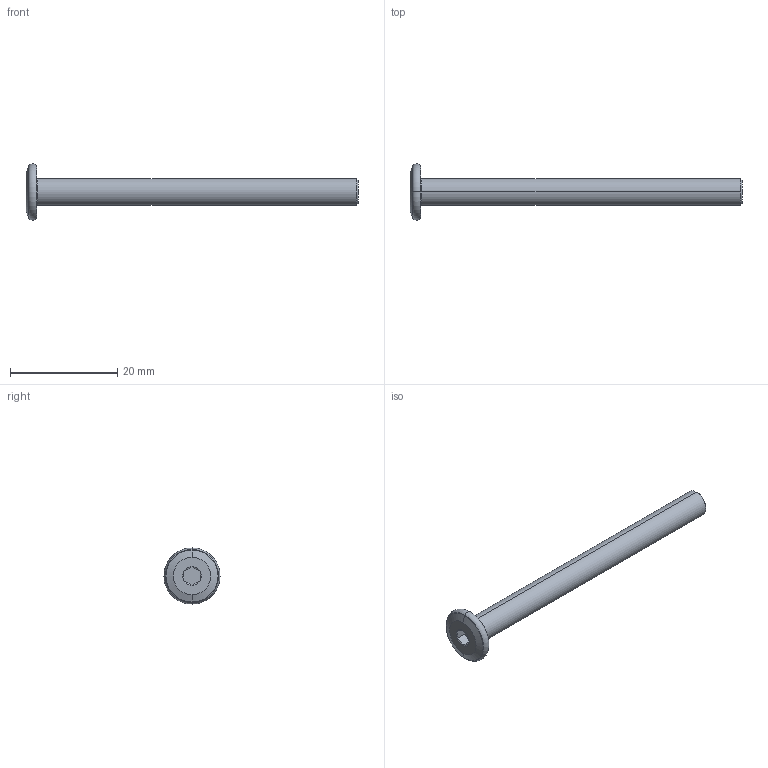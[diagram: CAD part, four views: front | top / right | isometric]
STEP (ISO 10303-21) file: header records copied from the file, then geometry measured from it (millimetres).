
FILE_DESCRIPTION (( 'STEP AP203' ), '1' );
FILE_NAME ('LGD-304D-M5x60.STEP', '2026-08-13T07:41:12', ( '' ), ( '' ), 'SwSTEP 2.0', 'SolidWorks 2020', '' );
FILE_SCHEMA (( 'CONFIG_CONTROL_DESIGN' ));
Length unit declared in the file: millimetre
Products named in the file (1): LGD-304D-M5x60
Bounding box: 62 x 10.5 x 10.5 mm (x, y, z)
Volume: 1314.7 mm3; surface area: 1166.7 mm2
Topology: 1 solids, 1 shells, 30 faces, 56 edges, 30 vertices
Faces by surface type: cone 10, plane 10, torus 8, cylinder 2
Entity records: 835 total; most frequent: CARTESIAN_POINT 151, DIRECTION 144, ORIENTED_EDGE 112, AXIS2_PLACEMENT_3D 63, EDGE_CURVE 56, CIRCLE 32, EDGE_LOOP 32, FACE_OUTER_BOUND 30
